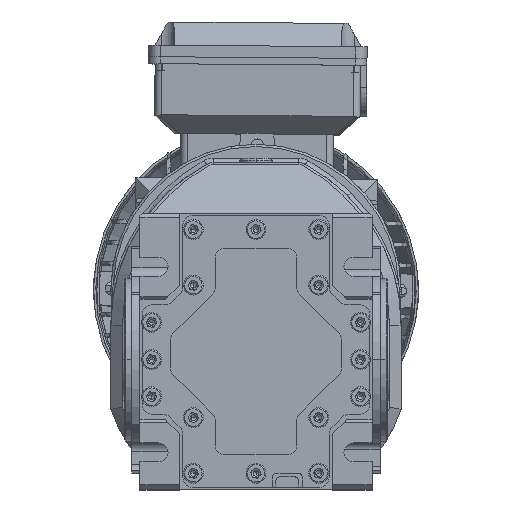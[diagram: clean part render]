
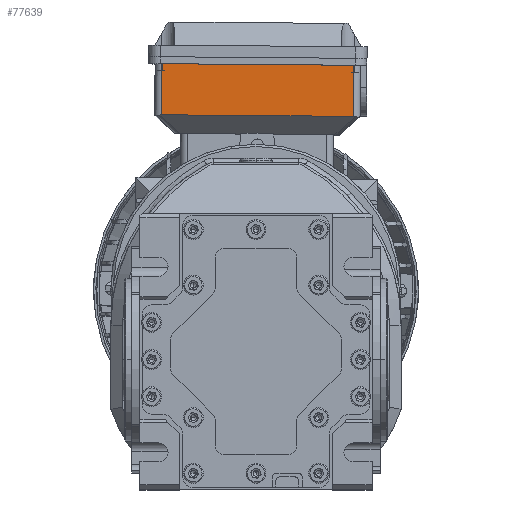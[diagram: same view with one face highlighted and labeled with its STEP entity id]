
A CAD part, top view. The second image highlights one B-rep face of the part: STEP entity #77639.
In plain terms, the highlighted planar face has unit normal (0, 0, 1) as drawn and (0, 0, -1) by its records, which use the part's own axes.
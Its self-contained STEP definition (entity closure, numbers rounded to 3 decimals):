
#1275 = CARTESIAN_POINT ( 'NONE',  ( 41.25, 9.5, -44.25 ) ) ;
#1352 = EDGE_LOOP ( 'NONE', ( #126998, #126978, #126979, #127017 ) ) ;
#1382 = CARTESIAN_POINT ( 'NONE',  ( -41.25, -12.5, -44.25 ) ) ;
#1396 = CARTESIAN_POINT ( 'NONE',  ( -41.25, 9.5, -44.25 ) ) ;
#1490 = CARTESIAN_POINT ( 'NONE',  ( 41.25, -12.5, -44.25 ) ) ;
#4293 = CARTESIAN_POINT ( 'NONE',  ( -44.25, -12.5, -44.25 ) ) ;
#4301 = DIRECTION ( 'NONE',  ( 1., 0., 0. ) ) ;
#4542 = CARTESIAN_POINT ( 'NONE',  ( 41.25, -17.5, -44.25 ) ) ;
#4557 = DIRECTION ( 'NONE',  ( 0., 1., 0. ) ) ;
#4579 = CARTESIAN_POINT ( 'NONE',  ( -44.25, 9.5, -44.25 ) ) ;
#4654 = DIRECTION ( 'NONE',  ( -1., 0., 0. ) ) ;
#5879 = DIRECTION ( 'NONE',  ( 0., -1., 0. ) ) ;
#5961 = CARTESIAN_POINT ( 'NONE',  ( -41.25, -17.5, -44.25 ) ) ;
#16702 = EDGE_CURVE ( 'NONE', #26133, #26241, #124076, .T. ) ;
#16762 = EDGE_CURVE ( 'NONE', #26241, #26098, #124050, .T. ) ;
#16837 = EDGE_CURVE ( 'NONE', #26098, #26210, #124150, .T. ) ;
#17060 = EDGE_CURVE ( 'NONE', #26210, #26133, #105020, .T. ) ;
#26098 = VERTEX_POINT ( 'NONE', #1275 ) ;
#26133 = VERTEX_POINT ( 'NONE', #1382 ) ;
#26210 = VERTEX_POINT ( 'NONE', #1396 ) ;
#26241 = VERTEX_POINT ( 'NONE', #1490 ) ;
#42227 = FACE_OUTER_BOUND ( 'NONE', #1352, .T. ) ;
#43709 = DIRECTION ( 'NONE',  ( 1., 0., 0. ) ) ;
#43715 = PLANE ( 'NONE',  #65159 ) ;
#43724 = DIRECTION ( 'NONE',  ( 0., 0., 1. ) ) ;
#43726 = CARTESIAN_POINT ( 'NONE',  ( -44.25, -17.5, -44.25 ) ) ;
#65159 = AXIS2_PLACEMENT_3D ( 'NONE', #43726, #43724, #43709 ) ;
#77639 = ADVANCED_FACE ( 'NONE', ( #42227 ), #43715, .F. ) ;
#104984 = VECTOR ( 'NONE', #5879, 1000. ) ;
#105020 = LINE ( 'NONE', #5961, #104984 ) ;
#124035 = VECTOR ( 'NONE', #4557, 1000. ) ;
#124050 = LINE ( 'NONE', #4542, #124035 ) ;
#124076 = LINE ( 'NONE', #4293, #124089 ) ;
#124089 = VECTOR ( 'NONE', #4301, 1000. ) ;
#124141 = VECTOR ( 'NONE', #4654, 1000. ) ;
#124150 = LINE ( 'NONE', #4579, #124141 ) ;
#126978 = ORIENTED_EDGE ( 'NONE', *, *, #16837, .F. ) ;
#126979 = ORIENTED_EDGE ( 'NONE', *, *, #16762, .F. ) ;
#126998 = ORIENTED_EDGE ( 'NONE', *, *, #17060, .F. ) ;
#127017 = ORIENTED_EDGE ( 'NONE', *, *, #16702, .F. ) ;
